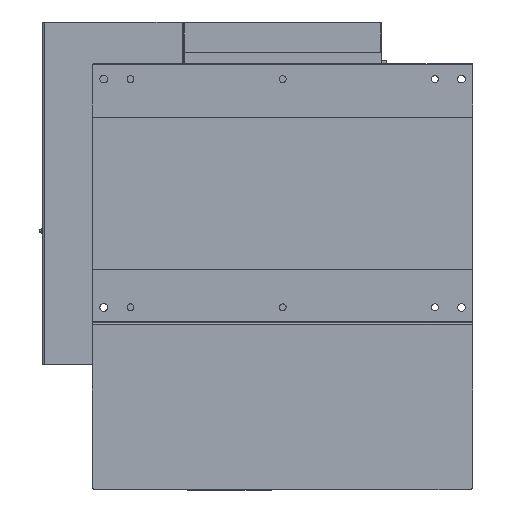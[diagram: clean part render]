
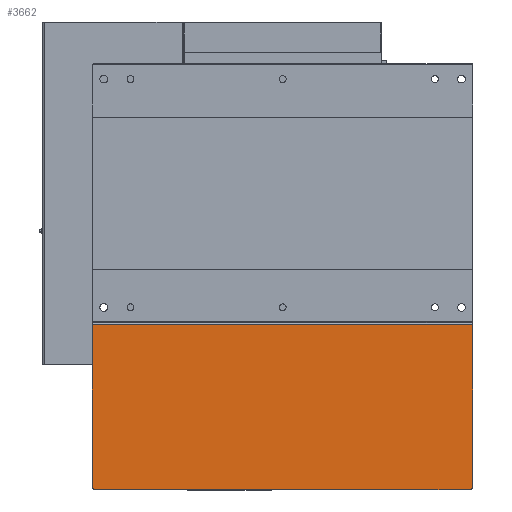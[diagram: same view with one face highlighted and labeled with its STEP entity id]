
A CAD part, front view. The second image highlights one B-rep face of the part: STEP entity #3662.
In plain terms, the highlighted planar face has unit normal (0, -1, 0).
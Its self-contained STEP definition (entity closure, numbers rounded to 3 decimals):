
#3062 = LINE ( 'NONE', #52580, #63715 ) ;
#3366 = CARTESIAN_POINT ( 'NONE',  ( 250., 0., -173. ) ) ;
#3438 = CARTESIAN_POINT ( 'NONE',  ( 250., 0., -170. ) ) ;
#3662 = ADVANCED_FACE ( 'NONE', ( #53092 ), #30889, .F. ) ;
#4266 = CARTESIAN_POINT ( 'NONE',  ( -250., 0., -170. ) ) ;
#5653 = VERTEX_POINT ( 'NONE', #55191 ) ;
#6460 = DIRECTION ( 'NONE',  ( -1., 0., 0. ) ) ;
#6529 = CARTESIAN_POINT ( 'NONE',  ( 245., 0., -390. ) ) ;
#11695 = VERTEX_POINT ( 'NONE', #3366 ) ;
#11860 = CARTESIAN_POINT ( 'NONE',  ( 250., 0., -385. ) ) ;
#14192 = VERTEX_POINT ( 'NONE', #48807 ) ;
#15749 = VERTEX_POINT ( 'NONE', #11860 ) ;
#15886 = DIRECTION ( 'NONE',  ( 0., 0., 1. ) ) ;
#15942 = ORIENTED_EDGE ( 'NONE', *, *, #81546, .T. ) ;
#18741 = EDGE_CURVE ( 'NONE', #14192, #5653, #26286, .T. ) ;
#22334 = ORIENTED_EDGE ( 'NONE', *, *, #43047, .F. ) ;
#23747 = ORIENTED_EDGE ( 'NONE', *, *, #51020, .T. ) ;
#25187 = DIRECTION ( 'NONE',  ( 0., 0., 1. ) ) ;
#26286 = CIRCLE ( 'NONE', #85325, 5. ) ;
#29023 = VECTOR ( 'NONE', #41302, 1000. ) ;
#30649 = DIRECTION ( 'NONE',  ( 0., -1., 0. ) ) ;
#30889 = PLANE ( 'NONE',  #51674 ) ;
#32239 = DIRECTION ( 'NONE',  ( 0., 0., -1. ) ) ;
#37384 = LINE ( 'NONE', #83096, #85163 ) ;
#41302 = DIRECTION ( 'NONE',  ( -1., 0., 0. ) ) ;
#42676 = AXIS2_PLACEMENT_3D ( 'NONE', #72174, #30649, #15886 ) ;
#43047 = EDGE_CURVE ( 'NONE', #11695, #15749, #3062, .T. ) ;
#45118 = CARTESIAN_POINT ( 'NONE',  ( -250., 0., -173. ) ) ;
#46283 = LINE ( 'NONE', #48274, #29023 ) ;
#48274 = CARTESIAN_POINT ( 'NONE',  ( 250., 0., -173. ) ) ;
#48807 = CARTESIAN_POINT ( 'NONE',  ( -250., 0., -385. ) ) ;
#50332 = EDGE_CURVE ( 'NONE', #88291, #15749, #84271, .T. ) ;
#50606 = EDGE_CURVE ( 'NONE', #88291, #5653, #37384, .T. ) ;
#51020 = EDGE_CURVE ( 'NONE', #73054, #14192, #59973, .T. ) ;
#51674 = AXIS2_PLACEMENT_3D ( 'NONE', #3438, #51837, #58795 ) ;
#51837 = DIRECTION ( 'NONE',  ( 0., 1., 0. ) ) ;
#52580 = CARTESIAN_POINT ( 'NONE',  ( 250., 0., -170. ) ) ;
#53092 = FACE_OUTER_BOUND ( 'NONE', #54190, .T. ) ;
#53490 = VECTOR ( 'NONE', #67212, 1000. ) ;
#54190 = EDGE_LOOP ( 'NONE', ( #62415, #64588, #22334, #15942, #23747, #82095 ) ) ;
#55191 = CARTESIAN_POINT ( 'NONE',  ( -245., 0., -390. ) ) ;
#58795 = DIRECTION ( 'NONE',  ( 0., 0., 1. ) ) ;
#59973 = LINE ( 'NONE', #4266, #53490 ) ;
#60009 = CARTESIAN_POINT ( 'NONE',  ( -245., 0., -385. ) ) ;
#62415 = ORIENTED_EDGE ( 'NONE', *, *, #50606, .F. ) ;
#63715 = VECTOR ( 'NONE', #32239, 1000. ) ;
#64588 = ORIENTED_EDGE ( 'NONE', *, *, #50332, .T. ) ;
#67212 = DIRECTION ( 'NONE',  ( 0., 0., -1. ) ) ;
#72174 = CARTESIAN_POINT ( 'NONE',  ( 245., 0., -385. ) ) ;
#73054 = VERTEX_POINT ( 'NONE', #45118 ) ;
#81546 = EDGE_CURVE ( 'NONE', #11695, #73054, #46283, .T. ) ;
#82095 = ORIENTED_EDGE ( 'NONE', *, *, #18741, .T. ) ;
#83096 = CARTESIAN_POINT ( 'NONE',  ( 250., 0., -390. ) ) ;
#84271 = CIRCLE ( 'NONE', #42676, 5. ) ;
#85163 = VECTOR ( 'NONE', #6460, 1000. ) ;
#85325 = AXIS2_PLACEMENT_3D ( 'NONE', #60009, #87067, #25187 ) ;
#87067 = DIRECTION ( 'NONE',  ( 0., -1., 0. ) ) ;
#88291 = VERTEX_POINT ( 'NONE', #6529 ) ;
